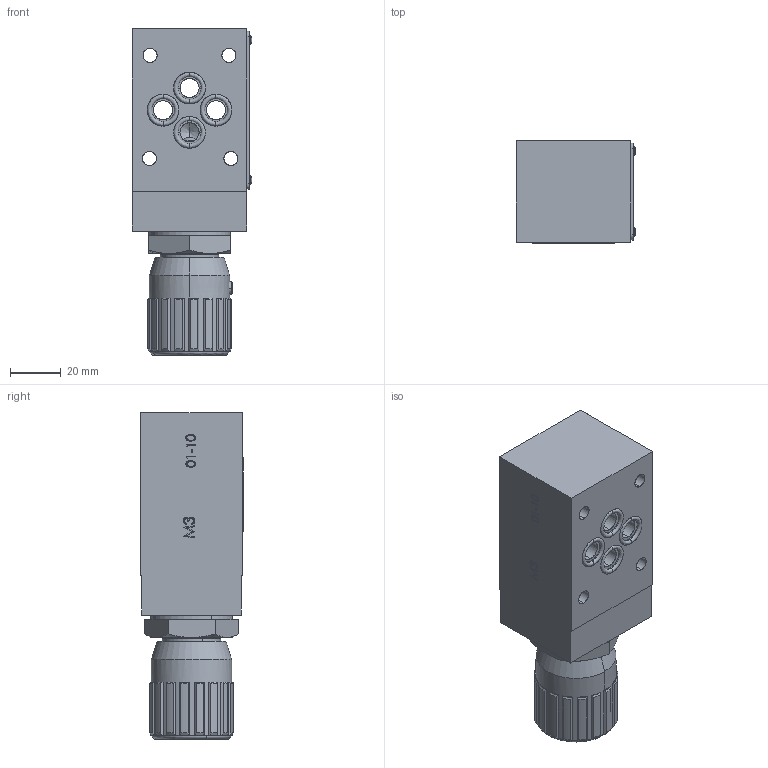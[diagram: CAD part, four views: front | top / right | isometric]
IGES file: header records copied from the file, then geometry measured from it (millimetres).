
Start section: SolidWorks IGES file using analytic representation for surfaces
Global section: file name: C:\Users\user\Desktop\FT357-5-B-03-H.IGS; native system: SolidWorks 2014; preprocessor: SolidWorks 2014; author: user; date: 140617.072108; units: millimetre
Bounding box: 46.96 x 40.38 x 128.3 mm (x, y, z)
Surface area: 60955.7 mm2 (no closed solid volume)
Topology: 0 solids, 0 shells, 2191 faces, 24553 edges, 24537 vertices
Faces by surface type: bspline 1686, revolution 505
